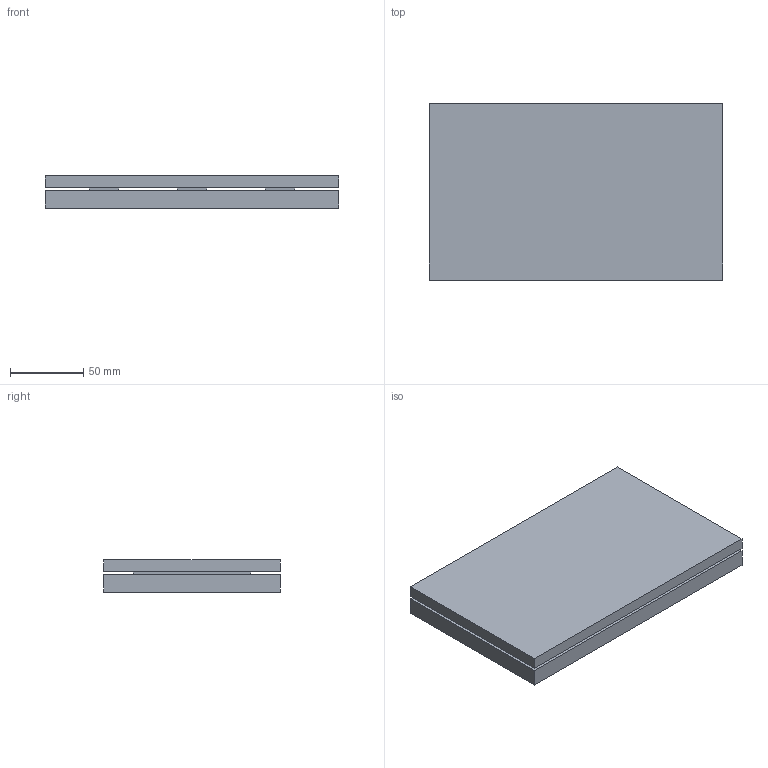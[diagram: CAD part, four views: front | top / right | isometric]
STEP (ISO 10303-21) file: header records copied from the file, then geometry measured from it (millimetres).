
FILE_DESCRIPTION(('Open CASCADE Model'),'2;1');
FILE_NAME('Open CASCADE Shape Model','2026-10-28T04:26:02',('Author'),( 'Open CASCADE'),'Open CASCADE STEP processor 7.8','Open CASCADE 7.8' ,'Unknown');
FILE_SCHEMA(('AUTOMOTIVE_DESIGN { 1 0 10303 214 1 1 1 1 }'));
Length unit declared in the file: millimetre
Products named in the file (6): Open CASCADE STEP translator 7.8 2; Open CASCADE STEP translator 7.8 2.1; Open CASCADE STEP translator 7.8 2.2; Open CASCADE STEP translator 7.8 2.3; Open CASCADE STEP translator 7.8 2.4; Open CASCADE STEP translator 7.8 2.5
Assembly tree (5 placements, depth 2):
  Open CASCADE STEP translator 7.8 2
    Open CASCADE STEP translator 7.8 2.1
    Open CASCADE STEP translator 7.8 2.2
    Open CASCADE STEP translator 7.8 2.3
    Open CASCADE STEP translator 7.8 2.4
    Open CASCADE STEP translator 7.8 2.5
Bounding box: 200 x 120 x 22 mm (x, y, z)
Volume: 489600 mm3; surface area: 119600 mm2
Topology: 5 solids, 5 shells, 30 faces, 60 edges, 40 vertices
Faces by surface type: plane 30
Entity records: 1636 total; most frequent: CARTESIAN_POINT 256, DIRECTION 252, LINE 180, VECTOR 180, ORIENTED_EDGE 120, PCURVE 120, DEFINITIONAL_REPRESENTATION 120, EDGE_CURVE 60
